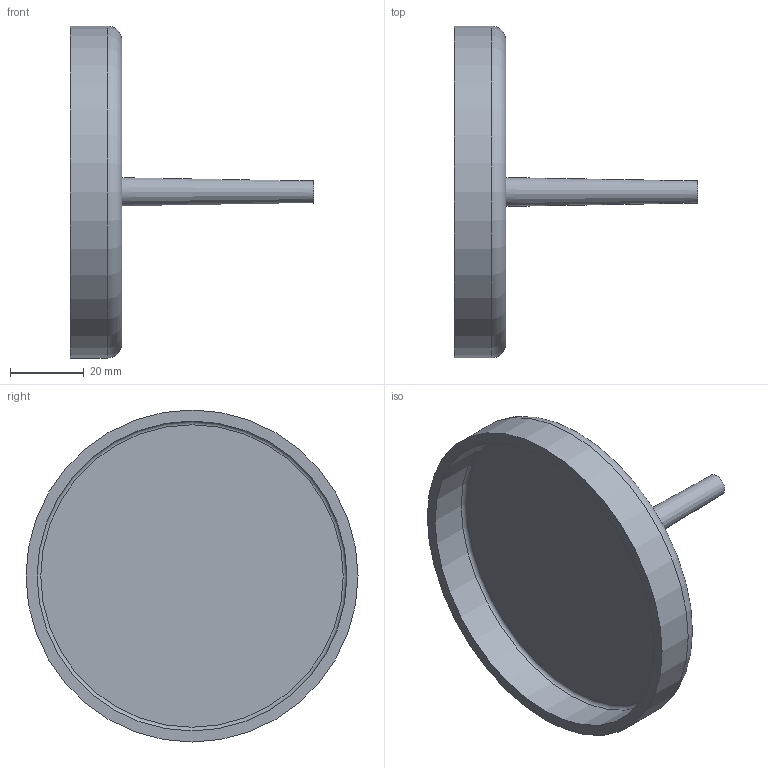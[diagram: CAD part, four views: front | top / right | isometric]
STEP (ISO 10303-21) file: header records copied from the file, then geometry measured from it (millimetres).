
FILE_DESCRIPTION(/* description */ (''),/* implementation_level */ '2;1');
FILE_NAME(/* name */ 'Z:\Geberit\Export\NewStep\Abschlussdeckel_Ipart\stp\366812.stp',/* time_stamp */ '2014-04-03T17:36:56+02:00',/* author */ ('Bründl'),/* organization */ (''),/* preprocessor_version */ 'ST-DEVELOPER v15.2',/* originating_system */ 'Autodesk Inventor 2014',/* authorisation */ '');
FILE_SCHEMA (('AUTOMOTIVE_DESIGN { 1 0 10303 214 3 1 1 }'));
Length unit declared in the file: millimetre
Products named in the file (1): 366812
Bounding box: 66 x 90 x 90 mm (x, y, z)
Volume: 29169.4 mm3; surface area: 20087.4 mm2
Topology: 1 solids, 1 shells, 9 faces, 13 edges, 8 vertices
Faces by surface type: plane 4, cylinder 2, torus 2, cone 1
Full cylindrical faces by diameter (mm): 84 x1, 90 x1
Entity records: 204 total; most frequent: DIRECTION 36, CARTESIAN_POINT 26, AXIS2_PLACEMENT_3D 18, EDGE_LOOP 16, ORIENTED_EDGE 16, STYLED_ITEM 10, ADVANCED_FACE 9, FACE_BOUND 8
